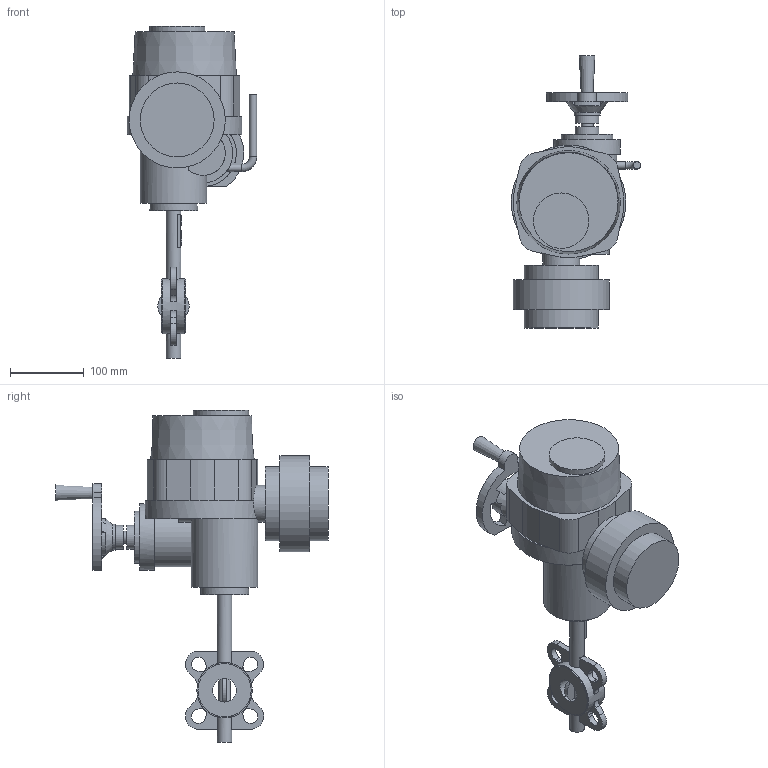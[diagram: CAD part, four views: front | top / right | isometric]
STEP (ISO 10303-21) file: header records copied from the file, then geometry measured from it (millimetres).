
FILE_DESCRIPTION(('STEP AP203'), '1');
FILE_NAME('青蜮铕 017W.ZS DN32+菹 QT.A005', '', ('UNSPECIFIED'), ('UNSPECIFIED'), 'ASCON STEP Converter 1.6', 'ASCON Math Kernel', '');
FILE_SCHEMA(('CONFIG_CONTROL_DESIGN'));
Length unit declared in the file: millimetre
Bounding box: 175 x 368 x 449 mm (x, y, z)
Volume: 4797542.6 mm3; surface area: 285296.5 mm2
Topology: 1 solids, 1 shells, 702 faces, 1957 edges, 1297 vertices
Faces by surface type: cylinder 418, plane 280, cone 3, torus 1
Full cylindrical faces by diameter (mm): 6.7 x8, 8 x4, 10 x2, 16 x1, 20 x2, 32 x3, 35 x1, 50 x1, 65 x1, 70 x1, 72 x2, 75 x2, 90 x2, 100 x2, 130 x1
Entity records: 29648 total; most frequent: CARTESIAN_POINT 5237, DIRECTION 4185, ORIENTED_EDGE 3840, EDGE_CURVE 1920, AXIS2_PLACEMENT_3D 1588, VERTEX_POINT 1297, LINE 1009, VECTOR 1009
